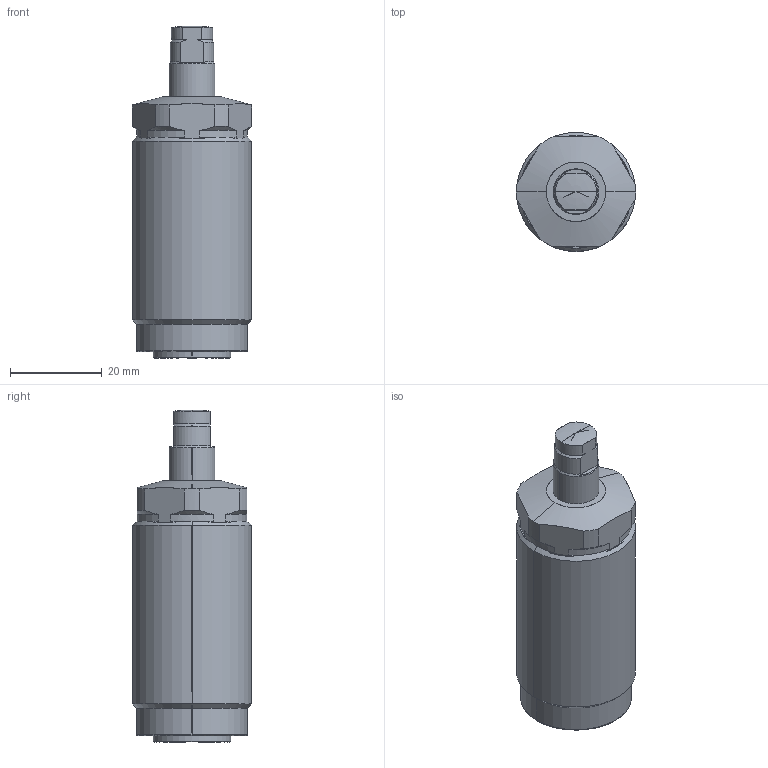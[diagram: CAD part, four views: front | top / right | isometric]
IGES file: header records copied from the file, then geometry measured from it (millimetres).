
Start section: SolidWorks IGES file using analytic representation for surfaces
Global section: file name: C:\Documents and Settings\nijil\My Documents\Clasys1\LDE Series\26\LD0262-x-E.IGS; native system: SolidWorks 2010; preprocessor: SolidWorks 2010; author: nijil; date: 130723.105506; units: millimetre
Bounding box: 26 x 26 x 72.5 mm (x, y, z)
Surface area: 6104.2 mm2 (no closed solid volume)
Topology: 0 solids, 0 shells, 96 faces, 992 edges, 978 vertices
Faces by surface type: revolution 52, bspline 44
